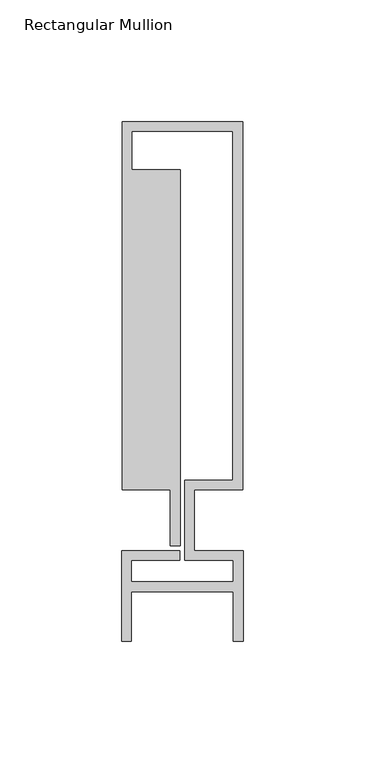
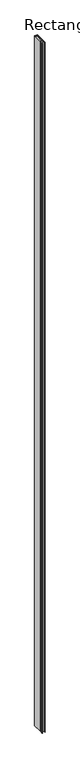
"""IFC4 building model written with IfcOpenShell, lengths in millimetres: member geometry, Rectangular Mullion : Reynaers_CW-50_Mullion-Transom_Horizontal_151.4mm_Facecap-03."""

from ifc_helpers import new_model, si_unit, frame, origin, place, context, project, spatial, polyline, outline, extrude, source, transform, mapped, element, save


def rectangular_mullion_11c32cba(model_context):
    return source(origin(), model_context, "Body", "SweptSolid", [
        extrude(outline(polyline([(-24.8004059, 163.9), (24.8004059, 163.9), (24.8004059, 12.5), (4.9004059, 12.5), (4.9004059, -12.5), (24.994845, -12.5), (24.994845, -49.8), (20.994845, -49.8), (20.994845, -29.3268728), (-20.994845, -29.3268728), (-20.994845, -49.8), (-24.994845, -49.8), (-24.994845, -12.5), (-1.0995941, -12.5), (-1.0995941, -16.5), (-20.994845, -16.5), (-20.994845, -25.3268728), (20.994845, -25.3268728), (20.994845, -16.5), (0.9004059, -16.5), (0.9004059, 16.5), (20.8004059, 16.5), (20.8004059, 159.9), (-20.8004059, 159.9), (-20.8004059, 144.0), (-0.9004059, 144.0), (-0.9004059, -10.5), (-4.9004059, -10.5), (-4.9004059, 12.5), (-24.8004059, 12.5), (-24.8004059, 163.9)])), frame((0.0, 0.0, -12000.0), z_axis=(0.0, 0.0, 1.0), x_axis=(1.0, 0.0, 0.0)), (0.0, 0.0, 1.0), 12000.0),
    ])


if __name__ == "__main__":
    model = new_model("IFC4")
    model_context = context("Model", 3, world=origin())
    ifc_project = project(units=[si_unit("LENGTHUNIT", "METRE", prefix="MILLI")], contexts=[model_context])
    site = spatial("IfcSite", under=ifc_project)
    building = spatial("IfcBuilding", under=site)
    placement = place(None, origin())
    rectangular_mullion_shape = rectangular_mullion_11c32cba(model_context)
    element("IfcMember", 1, ObjectType="Rectangular Mullion : Reynaers_CW-50_Mullion-Transom_Horizontal_151.4mm_Facecap-03", at=placement, inside=building, context=model_context, shape_type="MappedRepresentation", body=[
        mapped(rectangular_mullion_shape, transform((0.0, 0.0, 0.0), x_axis=(1.0, 0.0, 0.0), y_axis=(0.0, 1.0, 0.0), z_axis=(0.0, 0.0, 1.0))),
    ])
    save(model, "model.ifc")
